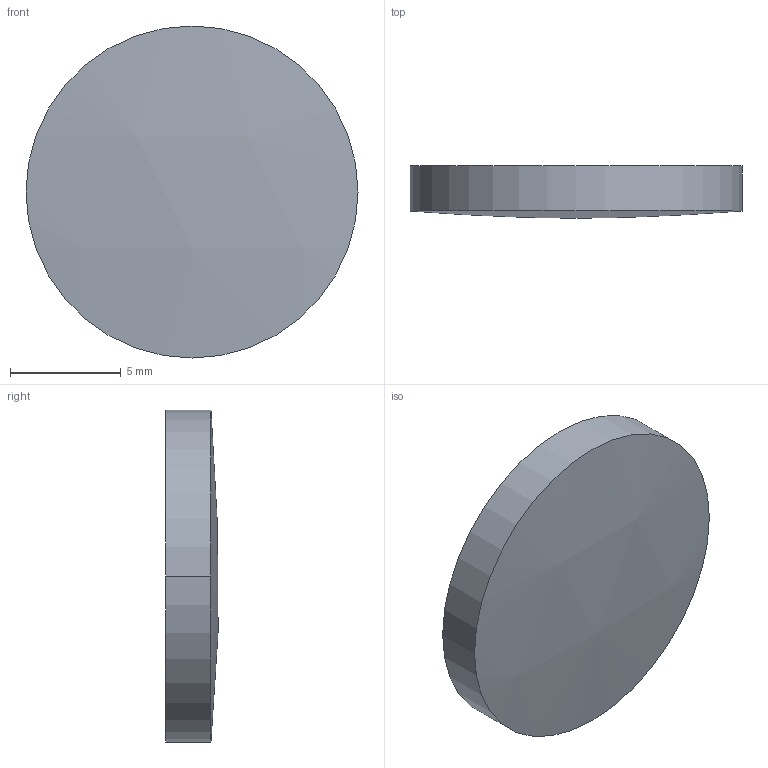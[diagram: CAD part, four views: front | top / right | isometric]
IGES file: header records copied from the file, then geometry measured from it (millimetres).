
Global section: file name: No Iges File Name specified; native system: AutoDesk Inventor R12.0; preprocessor: AutoDesk Inventor Iges Exporter R12.0; author: No Author specified; organization: No Organization specified; date: 20090512.154337; units: millimetre
Bounding box: 15 x 2.36 x 15 mm (x, y, z)
Volume: 392.1 mm3; surface area: 449.9 mm2
Topology: 1 solids, 1 shells, 4 faces, 6 edges, 4 vertices
Faces by surface type: cylinder 2, sphere 1, plane 1
